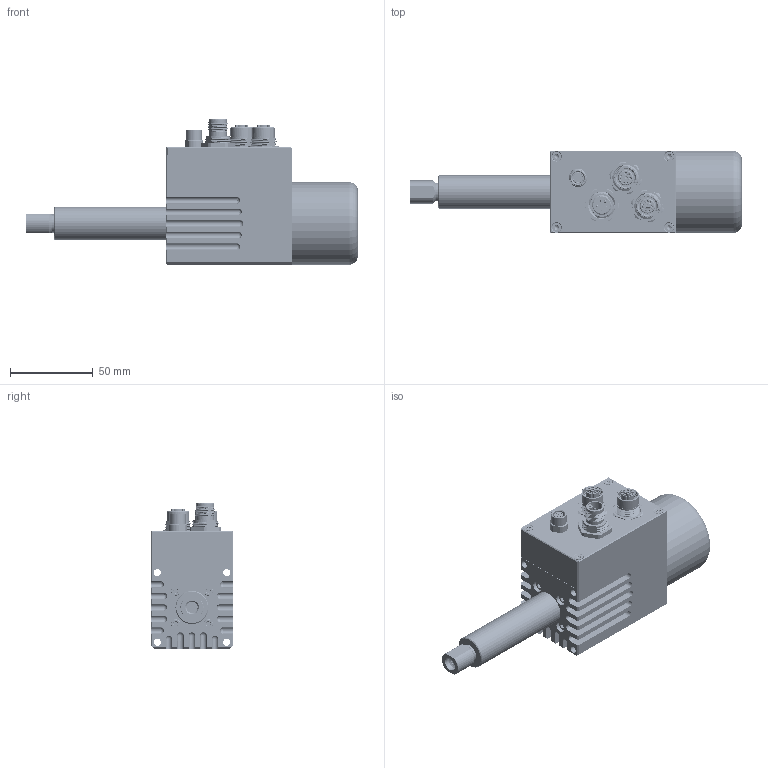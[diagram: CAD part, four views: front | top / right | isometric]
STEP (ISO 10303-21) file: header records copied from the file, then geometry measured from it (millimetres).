
FILE_DESCRIPTION(/* description */ (''),/* implementation_level */ '2;1');
FILE_NAME(/* name */ 'Envelope_LE-ICAT.A.50.XXXX.YYY.step',/* time_stamp */ '2025-06-06T09:52:10+02:00',/* author */ (''),/* organization */ (''),/* preprocessor_version */ 'ST-DEVELOPER v20.1',/* originating_system */ 'Autodesk Translation Framework v14.10.0.0',/* authorisation */ '');
FILE_SCHEMA (('AUTOMOTIVE_DESIGN { 1 0 10303 214 3 1 1 }'));
Products named in the file (15): 8N_150; 91290A115_Alloy Steel Socket Head Screw; 02-M-P.CO-50.40.F00; ASMBL_ICAT-Deckel; ASMBL_M12_Amissiontech_8P-Y_female_rear_AM12F0822Y002; 02-M-C.CP-50.ICAT.F00; ASMBL_M12_Amissiontech_8P-Y_female_rear_AM12F0822Y002_1; M12_Amissiontech_8P-Y_female_rear_AM12F0822Y002; ASMBL_M12_Pheonix_5P-L_1425590; M12_Pheonix_5P-L_1425590; ASMBL_M8_CUI_8P-A_female; M8_CUI_8P_female_CDM805-08A-FP-F011-67; CDM805 HOUSING; M8_PINS_FEMALE_FRONT_8P; 90236A121_Zinc-Plated Steel Torx Flat Head Screws
Assembly tree (21 placements, depth 5):
  8N_150
    91290A115_Alloy Steel Socket Head Screw  x4
    02-M-P.CO-50.40.F00
    ASMBL_ICAT-Deckel
      ASMBL_M12_Amissiontech_8P-Y_female_rear_AM12F0822Y002
        M12_Amissiontech_8P-Y_female_rear_AM12F0822Y002
      02-M-C.CP-50.ICAT.F00
      ASMBL_M12_Amissiontech_8P-Y_female_rear_AM12F0822Y002_1
        M12_Amissiontech_8P-Y_female_rear_AM12F0822Y002
      ASMBL_M12_Pheonix_5P-L_1425590
        M12_Pheonix_5P-L_1425590
      ASMBL_M8_CUI_8P-A_female
        M8_CUI_8P_female_CDM805-08A-FP-F011-67
          CDM805 HOUSING
          M8_PINS_FEMALE_FRONT_8P
    90236A121_Zinc-Plated Steel Torx Flat Head Screws  x4
Bounding box: 200.6 x 50 x 88 mm (x, y, z)
Volume: 293849 mm3; surface area: 88987 mm2
Topology: 18 solids, 28 shells, 2523 faces, 6785 edges, 4389 vertices
Faces by surface type: cylinder 900, plane 804, cone 311, bspline 304, torus 160, sphere 44
Full cylindrical faces by diameter (mm): 0.6 x16, 0.7 x8, 0.75 x8, 0.8 x16, 1 x14, 1.05 x8, 1.1 x16, 1.2 x16, 1.24 x8, 1.3 x5, 1.5 x4, 1.52 x1, 1.55 x25, 1.6 x32, 2.1 x6, 2.35 x136, 3 x136, 3.4 x8, 4.3 x4, 5.5 x4, 5.6 x1, 6 x2, 6.5 x4, 6.779 x4, 6.8 x1, 7.2 x1, 8.17 x2, 8.25 x7, 8.9 x5, 8.95 x2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
Entity records: 81070 total; most frequent: CARTESIAN_POINT 45837, ORIENTED_EDGE 7854, DIRECTION 6535, EDGE_CURVE 3927, VERTEX_POINT 2573, AXIS2_PLACEMENT_3D 2565, EDGE_LOOP 1666, FACE_OUTER_BOUND 1485
